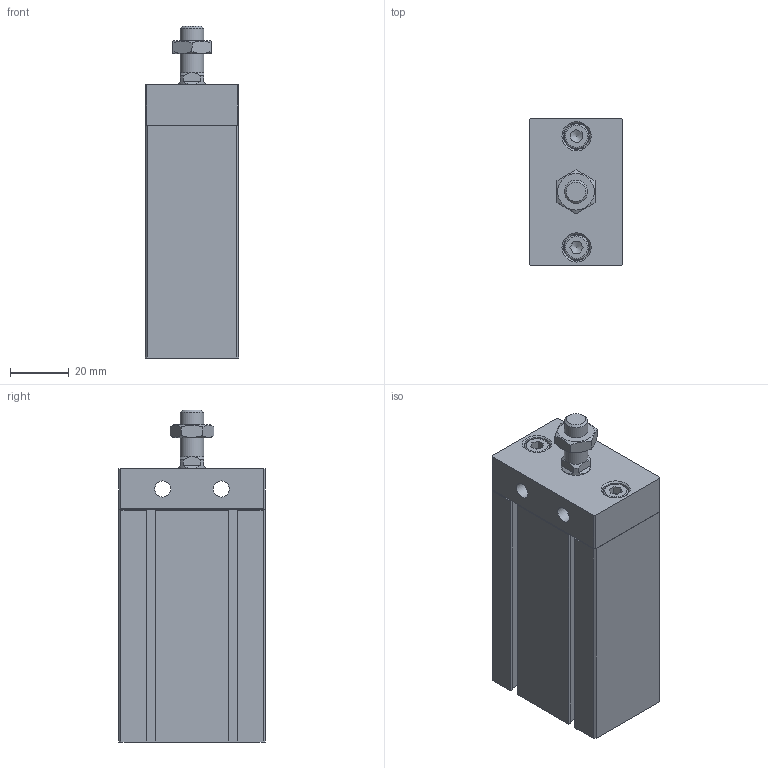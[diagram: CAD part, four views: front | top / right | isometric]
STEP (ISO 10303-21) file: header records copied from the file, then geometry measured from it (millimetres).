
FILE_DESCRIPTION((''),'2;1');
FILE_NAME('I:\3D電子目錄\氣缸\ND\ND\ND25-B\ND25x50-B.stp','2007-07-24T19:24:45',('Administrator'),(''),'Autodesk Inventor 11','Autodesk Inventor 11','');
FILE_SCHEMA(('AUTOMOTIVE_DESIGN { 1 0 10303 214 1 1 1 1 }'));
Length unit declared in the file: millimetre
Products named in the file (4): ND25-B; ISO 4762 M5 x 12; R 形環 28
Assembly tree (4 placements, depth 2):
  ND25-B
    ND25-B
    ISO 4762 M5 x 12  x2
    R 形環 28
Bounding box: 32 x 50.1 x 113.5 mm (x, y, z)
Volume: 139586.4 mm3; surface area: 28105.4 mm2
Topology: 5 solids, 5 shells, 177 faces, 411 edges, 261 vertices
Faces by surface type: plane 113, cylinder 27, cone 20, bspline 14, torus 3
Full cylindrical faces by diameter (mm): 1.5 x2, 1.9 x2, 5 x2, 5.5 x2, 8 x2, 8.5 x2, 9 x2, 17 x1, 28 x1, 29.4 x1
Entity records: 4577 total; most frequent: CARTESIAN_POINT 975, DIRECTION 714, ORIENTED_EDGE 668, EDGE_CURVE 334, AXIS2_PLACEMENT_3D 249, VERTEX_POINT 236, EDGE_LOOP 228, VECTOR 216
